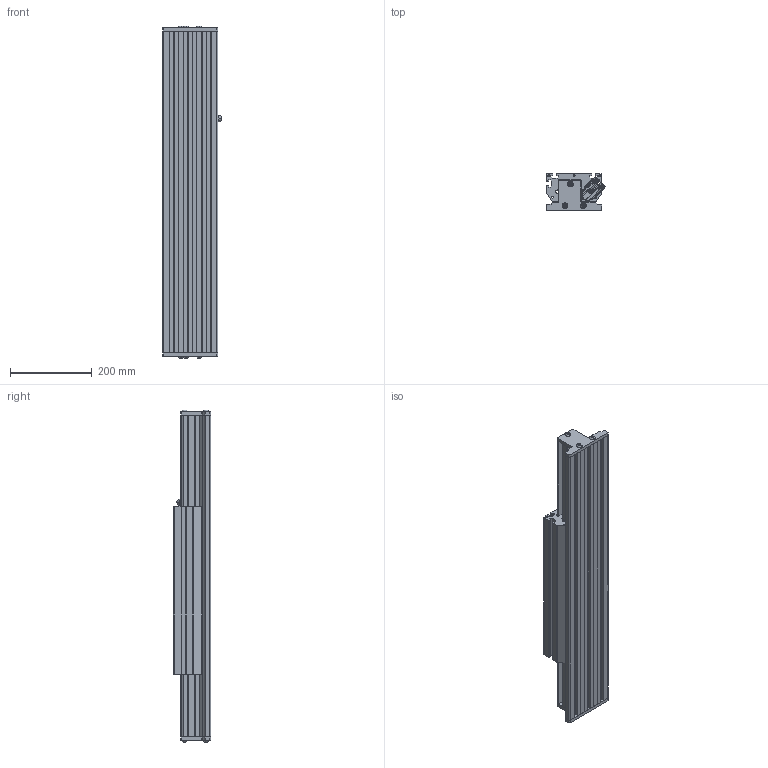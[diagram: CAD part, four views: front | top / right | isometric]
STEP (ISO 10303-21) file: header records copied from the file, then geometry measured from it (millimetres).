
FILE_DESCRIPTION (( 'STEP AP214' ), '1' );
FILE_NAME ('SINADRIVES Linear Motor Stage MLL20630XS-XX-1-0-ST-00-00804.STEP', '2015-07-07T07:42:27', ( 'Tecnico' ), ( '' ), 'SwSTEP 2.0', 'SolidWorks 2009', '' );
FILE_SCHEMA (( 'AUTOMOTIVE_DESIGN' ));
Length unit declared in the file: millimetre
Products named in the file (7): SINADRIVES CARRIAGE MLL20630XS-1; CARRIAGE MLL20630; Connector power+signal Y-tec 45; SINADRIVES PROFILE MLL2XXXX-0788; SINADRIVES ENDBLOCK MLL2; SINADRIVES ENDBLOCK MLL2-2; SINADRIVES Linear Motor Stage MLL20630XS-XX-1-0-ST-00-00804
Assembly tree (6 placements, depth 3):
  SINADRIVES Linear Motor Stage MLL20630XS-XX-1-0-ST-00-00804
    SINADRIVES CARRIAGE MLL20630XS-1
      CARRIAGE MLL20630
      Connector power+signal Y-tec 45
    SINADRIVES ENDBLOCK MLL2
    SINADRIVES ENDBLOCK MLL2-2
    SINADRIVES PROFILE MLL2XXXX-0788
Bounding box: 144.43 x 91 x 812.8 mm (x, y, z)
Volume: 5458449.8 mm3; surface area: 927655.7 mm2
Topology: 2 solids, 42 shells, 950 faces, 2640 edges, 1730 vertices
Faces by surface type: plane 445, cylinder 302, bspline 79, cone 70, torus 42, sphere 12
Entity records: 40587 total; most frequent: CARTESIAN_POINT 8656, ORIENTED_EDGE 5024, DIRECTION 4947, EDGE_CURVE 2622, AXIS2_PLACEMENT_3D 1781, VERTEX_POINT 1730, LINE 1385, VECTOR 1385
